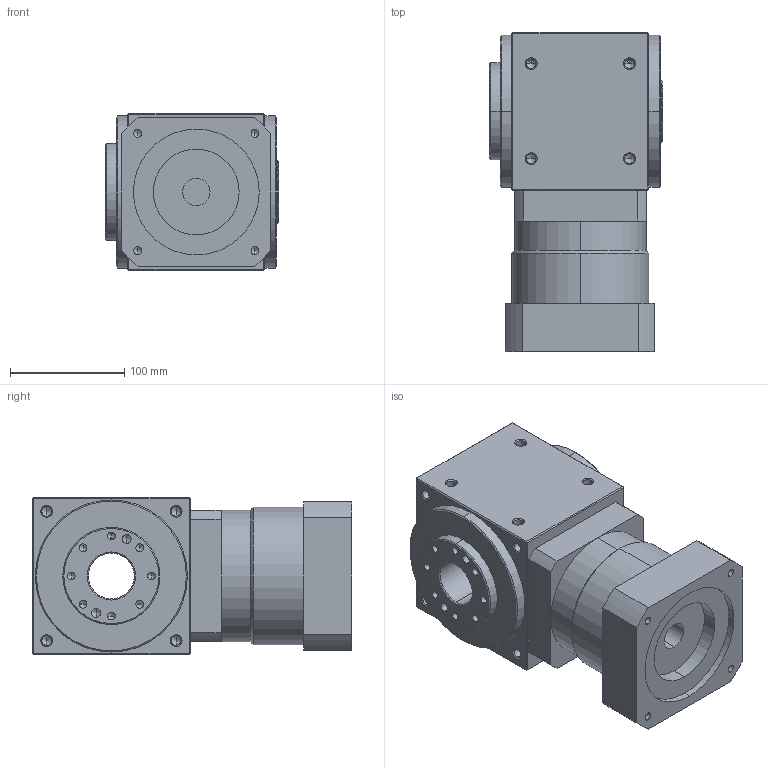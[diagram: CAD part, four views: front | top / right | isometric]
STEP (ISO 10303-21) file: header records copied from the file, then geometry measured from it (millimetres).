
FILE_DESCRIPTION (( 'STEP AP214' ), '1' );
FILE_NAME ('RXW135AS-L1-RF--24-110-145-m8.STEP', '2020-11-27T03:22:30', ( '微软用户' ), ( '微软中国' ), 'SwSTEP 2.0', 'SolidWorks 2014', '' );
FILE_SCHEMA (( 'AUTOMOTIVE_DESIGN' ));
Length unit declared in the file: millimetre
Products named in the file (2): RXW135AS-L1-RF--24-110-145-m8
Bounding box: 151.5 x 279 x 138 mm (x, y, z)
Volume: 4095443.9 mm3; surface area: 227472.7 mm2
Topology: 1 solids, 1 shells, 265 faces, 638 edges, 342 vertices
Faces by surface type: cone 122, cylinder 96, plane 47
Entity records: 10188 total; most frequent: DIRECTION 1348, CARTESIAN_POINT 1291, ORIENTED_EDGE 1140, EDGE_CURVE 570, AXIS2_PLACEMENT_3D 527, VERTEX_POINT 342, EDGE_LOOP 310, VECTOR 294
